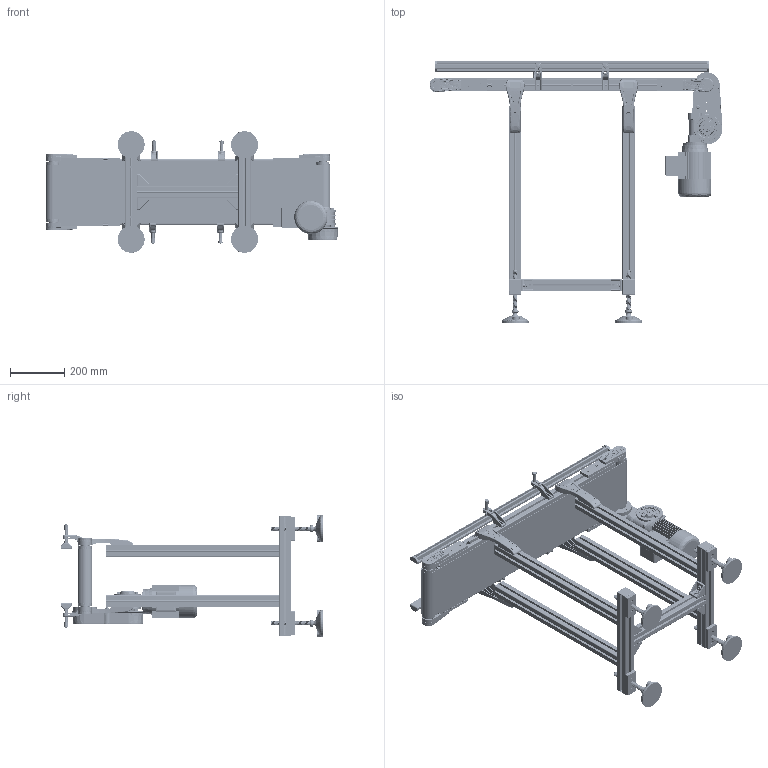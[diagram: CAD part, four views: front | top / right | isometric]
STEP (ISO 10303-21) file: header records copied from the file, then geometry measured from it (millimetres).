
FILE_DESCRIPTION (( 'STEP AP203' ), '1' );
FILE_NAME ('NASTRO_RETTILINEO_TAPPETO.step', '2026-05-30T07:01:02', ( 'Utente Windows' ), ( '' ), 'SwSTEP 2.0', 'SolidWorks 2024', '' );
FILE_SCHEMA (( 'CONFIG_CONTROL_DESIGN' ));
Length unit declared in the file: millimetre
Products named in the file (75): 084.802.034_084.802.034; VITI TSEI UNI 5933 INOX_0412UNI5933A2; DADI ESAGONALI NORMALI UNI 5588_M6 UNI 5588; 084.302.000 DADI ALUSIC 13x13-1_084.302.004; VITI TE UNI 5739_M8x20 UNI 5739; 084.813.004; 084.810.008; 084.301.000 VITI ALUSIC1_084.301.003; 084.711.006_PER CAVA 8 PERNO ALTO 1; 084.402.005; 08UNI7435; BLOCCO_PERNO_50_RINVIATO; FLANGIA_GAMBA_50; 084.711.006_L1; 084.807.002_084.807.002; VITI TSEI UNI 5933_M5x12 UNI 5933; 084.802.008; BLOCCO_TRAINO_50_STANDARD; 084.303.001; ANGOLARE_43; RONDELLE UNI 6592_8.4x17 UNI 6592; CHIAVETTE_A 5x5x20 UNI 6604-69; 084.711.005; 084.301.000 VITI ALUSIC_084.301.003; 084.802.071; NASTRO_RETTILINEO_TAPPETO; BLOCCO_TRAINO_50_RINVIATO_CINGHIA_44_SX_MOTORE A SINISTRA; 084.302.000 DADI ALUSIC 13x13-1_084.302.009; VITI TSEI UNI 5933_M4x10 UNI 5933; 084.302.000 DADI ALUSIC 13x13_084.302.004; 084.305.003-1; VITE_RONDELLA_M8X20; 084.301.000 VITI ALUSIC_084.301.009; VITE_DADO_M5X12; CHIAVETTE_A 8x7x25 UNI 6604-69; CH04P_SX; 084.813.001; 084.810.006; 084.832.001; 084.821.002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
Assembly tree (169 placements, depth 4):
  NASTRO_RETTILINEO_TAPPETO
    TAPPETO_STANDARD
    TELAIO_50_STANDARD_Default<A macchina>
    LAMIERA_STANDARD
    RULLO_50_Default<A macchina>  x2
    BLOCCO_PERNO_50_RINVIO  x3
      084.811.004
      084.810.001
    BLOCCO_TRAINO_50_STANDARD
      084.807.002_084.807.002
      084.802.017_084.802.017
      084.301.000 VITI ALUSIC_084.301.003  x2
      084.302.000 DADI ALUSIC 13x13-1_084.302.004  x2
      084.802.071
      VITI TSEI UNI 5933 INOX_0412UNI5933A2  x2
    BLOCCO_PERNO_50_RINVIATO
      084.810.001
      084.813.001
      CHIAVETTE_A 8x7x25 UNI 6604-69
      CHIAVETTE_A 5x5x20 UNI 6604-69
    BLOCCO_TRAINO_50_RINVIATO_CINGHIA_44_SX_MOTORE A SINISTRA
      084.813.004
      084.810.006
        084.810.008
        CUSCINETTI A SFERE_608-2RS  x3
        08UNI7435
        RONDELLE FASCIA LARGA UNI 6593_8.4x24 UNI 6593
        DADI ESAGONALI AUTOBLOCCANTI UNI 7473_M08 UNI 7473
      084.809.001
      084.821.002  x2
      084.821.003
      084.802.034_084.802.034
      084.807.001_084.807.001
      CHIAVETTE_A 8x7x25 UNI 6604-69  x2
      CHIAVETTE_A 6x6x50 UNI 6604-69
      084.302.000 DADI ALUSIC 13x13-1_084.302.004  x2
      084.301.000 VITI ALUSIC_084.301.003  x2
      RONDELLE UNI 6592_8.4x17 UNI 6592  x4
      VITI TE UNI 5739_M8x20 UNI 5739  x4
      RONDELLE FASCIA LARGA UNI 6593_5.4x20 UNI 6593
      084.301.000 VITI ALUSIC_084.301.009
      VITI TE UNI 5739_M6x12 UNI 5739  x4
      084.832.001
    BLOCCO_RINVIO_50_STANDARD  x2
      084.807.002_084.807.002
      084.802.017_084.802.017
      084.802.008
      084.301.000 VITI ALUSIC_084.301.003
      084.302.000 DADI ALUSIC 13x13_084.302.004
      VITI TSEI UNI 5933_M4x10 UNI 5933
      084.802.071
    SPONDA_Default<A macchina>  x2
    084.711.006_PER CAVA 8 PERNO ALTO 1  x4
      084.711.006_L1
      084.711.006_L2
      084.711.007
      084.711.005
      084.711.010
      DADI ESAGONALI NORMALI UNI 5588_M6 UNI 5588
    084.712.002  x4
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Bounding box: 1084.75 x 972.1 x 449.87 mm (x, y, z)
Volume: 11074704.6 mm3; surface area: 6816351.6 mm2
Topology: 284 solids, 293 shells, 15840 faces, 41252 edges, 26208 vertices
Faces by surface type: plane 6279, cylinder 5232, bspline 1683, cone 1367, torus 1136, sphere 143
Entity records: 245617 total; most frequent: CARTESIAN_POINT 84287, ORIENTED_EDGE 33036, DIRECTION 30088, EDGE_CURVE 16518, AXIS2_PLACEMENT_3D 10636, VERTEX_POINT 10610, VECTOR 8816, LINE 8816
